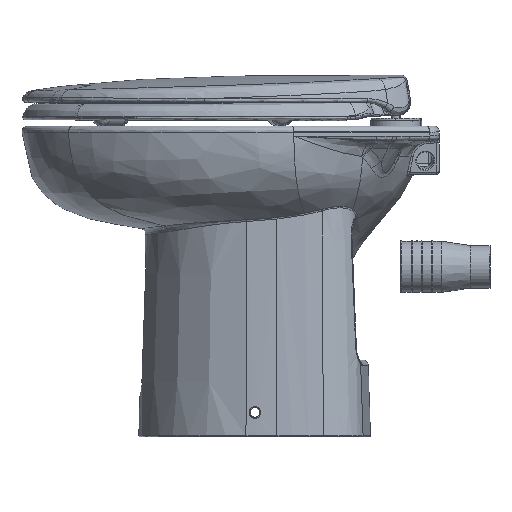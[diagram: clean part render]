
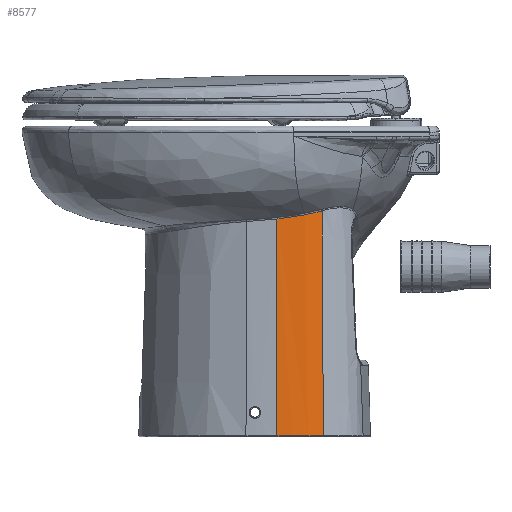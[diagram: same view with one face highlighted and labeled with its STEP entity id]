
A CAD part, front view. The second image highlights one B-rep face of the part: STEP entity #8577.
In plain terms, the highlighted conical face has half-angle 2 degrees and reference radius 300 mm.
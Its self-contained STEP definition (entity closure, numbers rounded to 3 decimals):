
#1598 = DIRECTION ( 'NONE',  ( -0.034, -0.006, -0.999 ) ) ;
#2528 = LINE ( 'NONE', #146604, #59298 ) ;
#8577 = ADVANCED_FACE ( 'NONE', ( #12295 ), #133539, .T. ) ;
#12295 = FACE_OUTER_BOUND ( 'NONE', #148791, .T. ) ;
#14250 = VERTEX_POINT ( 'NONE', #108897 ) ;
#24576 = CARTESIAN_POINT ( 'NONE',  ( -117.171, 167.265, 214.197 ) ) ;
#25575 = CARTESIAN_POINT ( 'NONE',  ( 175., 167.265, -10. ) ) ;
#30883 = CARTESIAN_POINT ( 'NONE',  ( -113.151, 120.775, 222.599 ) ) ;
#39350 = VERTEX_POINT ( 'NONE', #94718 ) ;
#40650 = ORIENTED_EDGE ( 'NONE', *, *, #105925, .F. ) ;
#43064 = CARTESIAN_POINT ( 'NONE',  ( -114.144, 126.577, 220.997 ) ) ;
#43563 = CARTESIAN_POINT ( 'NONE',  ( -115.609, 138.598, 218.531 ) ) ;
#44913 = CARTESIAN_POINT ( 'NONE',  ( -117.171, 167.265, 214.197 ) ) ;
#44945 = EDGE_CURVE ( 'NONE', #151142, #101922, #126556, .T. ) ;
#50475 = LINE ( 'NONE', #94944, #82576 ) ;
#59298 = VECTOR ( 'NONE', #1598, 1000. ) ;
#68730 = DIRECTION ( 'NONE',  ( 0., 0., 1. ) ) ;
#68797 = EDGE_CURVE ( 'NONE', #14250, #127301, #98497, .T. ) ;
#74390 = AXIS2_PLACEMENT_3D ( 'NONE', #25575, #85877, #109220 ) ;
#74877 = EDGE_CURVE ( 'NONE', #39350, #151142, #83696, .T. ) ;
#77510 = CARTESIAN_POINT ( 'NONE',  ( -115.609, 138.598, 218.531 ) ) ;
#82576 = VECTOR ( 'NONE', #117740, 1000. ) ;
#83696 = B_SPLINE_CURVE_WITH_KNOTS ( 'NONE', 3,
 ( #30883, #43064, #116090, #43563 ),
 .UNSPECIFIED., .F., .F.,
 ( 4, 4 ),
 ( 0., 1. ),
 .UNSPECIFIED. ) ;
#84880 = CARTESIAN_POINT ( 'NONE',  ( -116.612, 148.108, 216.69 ) ) ;
#85877 = DIRECTION ( 'NONE',  ( 0., 0., -1. ) ) ;
#94148 = ORIENTED_EDGE ( 'NONE', *, *, #44945, .T. ) ;
#94718 = CARTESIAN_POINT ( 'NONE',  ( -113.151, 120.775, 222.599 ) ) ;
#94944 = CARTESIAN_POINT ( 'NONE',  ( -125., 167.265, -10. ) ) ;
#96079 = ORIENTED_EDGE ( 'NONE', *, *, #68797, .T. ) ;
#97086 = CARTESIAN_POINT ( 'NONE',  ( -115.609, 138.598, 218.531 ) ) ;
#98497 = CIRCLE ( 'NONE', #105122, 299.964 ) ;
#101922 = VERTEX_POINT ( 'NONE', #44913 ) ;
#105122 = AXIS2_PLACEMENT_3D ( 'NONE', #141271, #68730, #153387 ) ;
#105925 = EDGE_CURVE ( 'NONE', #39350, #127301, #2528, .T. ) ;
#106370 = ORIENTED_EDGE ( 'NONE', *, *, #142548, .T. ) ;
#106599 = ORIENTED_EDGE ( 'NONE', *, *, #74877, .T. ) ;
#106653 = CARTESIAN_POINT ( 'NONE',  ( -117.133, 157.668, 215.285 ) ) ;
#108897 = CARTESIAN_POINT ( 'NONE',  ( -124.964, 167.265, -8.965 ) ) ;
#109220 = DIRECTION ( 'NONE',  ( -1., 0., 0. ) ) ;
#116090 = CARTESIAN_POINT ( 'NONE',  ( -114.971, 132.521, 219.641 ) ) ;
#117740 = DIRECTION ( 'NONE',  ( -0.035, 0., -0.999 ) ) ;
#126556 = B_SPLINE_CURVE_WITH_KNOTS ( 'NONE', 3,
 ( #97086, #84880, #106653, #24576 ),
 .UNSPECIFIED., .F., .F.,
 ( 4, 4 ),
 ( 0., 0.029 ),
 .UNSPECIFIED. ) ;
#127301 = VERTEX_POINT ( 'NONE', #150581 ) ;
#133539 = CONICAL_SURFACE ( 'NONE', #74390, 300., 0.035 ) ;
#141271 = CARTESIAN_POINT ( 'NONE',  ( 175., 167.265, -8.965 ) ) ;
#142548 = EDGE_CURVE ( 'NONE', #101922, #14250, #50475, .T. ) ;
#146604 = CARTESIAN_POINT ( 'NONE',  ( -121.17, 119.482, -10. ) ) ;
#148791 = EDGE_LOOP ( 'NONE', ( #94148, #106370, #96079, #40650, #106599 ) ) ;
#150581 = CARTESIAN_POINT ( 'NONE',  ( -121.134, 119.487, -8.965 ) ) ;
#151142 = VERTEX_POINT ( 'NONE', #77510 ) ;
#153387 = DIRECTION ( 'NONE',  ( 1., 0., 0. ) ) ;
